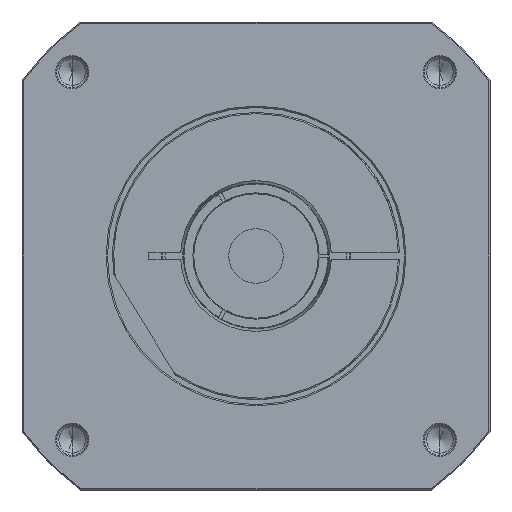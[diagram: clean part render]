
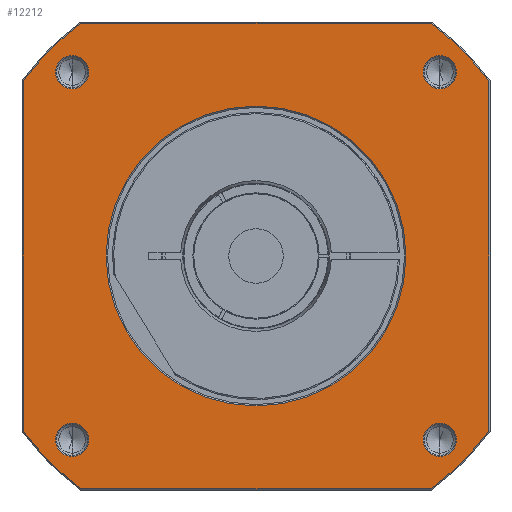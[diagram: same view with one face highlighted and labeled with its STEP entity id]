
A CAD part, left-side view. The second image highlights one B-rep face of the part: STEP entity #12212.
In plain terms, the highlighted planar face has unit normal (-1, 0, 0) as drawn and (0, 0, 1) by its records, which use the part's own axes.
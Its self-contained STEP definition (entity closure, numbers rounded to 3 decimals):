
#10940=DIRECTION('',(1.,0.,0.));
#10941=VECTOR('',#10940,134.666);
#10942=CARTESIAN_POINT('',(-67.333,-89.5,54.));
#10943=LINE('',#10942,#10941);
#10953=CARTESIAN_POINT('',(0.,0.,54.));
#10954=DIRECTION('',(0.,0.,-1.));
#10955=DIRECTION('',(0.,-1.,0.));
#10956=AXIS2_PLACEMENT_3D('',#10953,#10954,#10955);
#10958=CARTESIAN_POINT('',(0.,0.,
54.));
#10959=DIRECTION('',(0.,0.,-1.));
#10960=DIRECTION('',(0.,1.,0.));
#10961=AXIS2_PLACEMENT_3D('',#10958,#10959,#10960);
#10963=CARTESIAN_POINT('',(0.,0.,54.));
#10964=DIRECTION('',(0.,0.,1.));
#10965=DIRECTION('',(-0.799,-0.601,0.));
#10966=AXIS2_PLACEMENT_3D('',#10963,#10964,#10965);
#10978=DIRECTION('',(0.,-1.,0.));
#10979=VECTOR('',#10978,134.666);
#10980=CARTESIAN_POINT('',(-89.5,67.333,54.));
#10981=LINE('',#10980,#10979);
#10991=CARTESIAN_POINT('',(0.,0.,54.));
#10992=DIRECTION('',(0.,0.,1.));
#10993=DIRECTION('',(-0.601,0.799,0.));
#10994=AXIS2_PLACEMENT_3D('',#10991,#10992,#10993);
#11019=DIRECTION('',(-1.,0.,0.));
#11020=VECTOR('',#11019,134.666);
#11021=CARTESIAN_POINT('',(67.333,89.5,54.));
#11022=LINE('',#11021,#11020);
#11027=CARTESIAN_POINT('',(0.,0.,54.));
#11028=DIRECTION('',(0.,0.,1.));
#11029=DIRECTION('',(0.799,0.601,0.));
#11030=AXIS2_PLACEMENT_3D('',#11027,#11028,#11029);
#11042=DIRECTION('',(0.,1.,0.));
#11043=VECTOR('',#11042,134.666);
#11044=CARTESIAN_POINT('',(89.5,-67.333,54.));
#11045=LINE('',#11044,#11043);
#11147=CARTESIAN_POINT('',(0.,0.,54.));
#11148=DIRECTION('',(0.,0.,1.));
#11149=DIRECTION('',(0.601,-0.799,0.));
#11150=AXIS2_PLACEMENT_3D('',#11147,#11148,#11149);
#11429=CARTESIAN_POINT('',(-70.711,70.711,54.));
#11430=DIRECTION('',(0.,0.,1.));
#11431=DIRECTION('',(-1.,0.,0.));
#11432=AXIS2_PLACEMENT_3D('',#11429,#11430,#11431);
#11447=CARTESIAN_POINT('',(-70.711,70.711,54.));
#11448=DIRECTION('',(0.,0.,1.));
#11449=DIRECTION('',(1.,0.,0.));
#11450=AXIS2_PLACEMENT_3D('',#11447,#11448,#11449);
#11483=CARTESIAN_POINT('',(70.711,70.711,54.));
#11484=DIRECTION('',(0.,0.,1.));
#11485=DIRECTION('',(-1.,0.,0.));
#11486=AXIS2_PLACEMENT_3D('',#11483,#11484,#11485);
#11501=CARTESIAN_POINT('',(70.711,70.711,54.));
#11502=DIRECTION('',(0.,0.,1.));
#11503=DIRECTION('',(1.,0.,0.));
#11504=AXIS2_PLACEMENT_3D('',#11501,#11502,#11503);
#11537=CARTESIAN_POINT('',(70.711,-70.711,54.));
#11538=DIRECTION('',(0.,0.,1.));
#11539=DIRECTION('',(-1.,0.,0.));
#11540=AXIS2_PLACEMENT_3D('',#11537,#11538,#11539);
#11555=CARTESIAN_POINT('',(70.711,-70.711,54.));
#11556=DIRECTION('',(0.,0.,1.));
#11557=DIRECTION('',(1.,0.,0.));
#11558=AXIS2_PLACEMENT_3D('',#11555,#11556,#11557);
#11591=CARTESIAN_POINT('',(-70.711,-70.711,54.));
#11592=DIRECTION('',(0.,0.,1.));
#11593=DIRECTION('',(-1.,0.,0.));
#11594=AXIS2_PLACEMENT_3D('',#11591,#11592,#11593);
#11609=CARTESIAN_POINT('',(-70.711,-70.711,54.));
#11610=DIRECTION('',(0.,0.,1.));
#11611=DIRECTION('',(1.,0.,0.));
#11612=AXIS2_PLACEMENT_3D('',#11609,#11610,#11611);
#11653=CARTESIAN_POINT('',(89.5,-67.333,54.));
#11654=CARTESIAN_POINT('',(89.5,67.333,54.));
#11655=VERTEX_POINT('',#11653);
#11656=VERTEX_POINT('',#11654);
#11661=CARTESIAN_POINT('',(67.333,-89.5,54.));
#11662=VERTEX_POINT('',#11661);
#11665=CARTESIAN_POINT('',(-67.333,-89.5,54.));
#11666=VERTEX_POINT('',#11665);
#11669=CARTESIAN_POINT('',(-89.5,-67.333,54.));
#11670=VERTEX_POINT('',#11669);
#11673=CARTESIAN_POINT('',(-89.5,67.333,54.));
#11674=VERTEX_POINT('',#11673);
#11677=CARTESIAN_POINT('',(-67.333,89.5,54.));
#11678=VERTEX_POINT('',#11677);
#11681=CARTESIAN_POINT('',(67.333,89.5,54.));
#11682=VERTEX_POINT('',#11681);
#11731=CARTESIAN_POINT('',(-77.111,70.711,54.));
#11732=CARTESIAN_POINT('',(-64.311,70.711,54.));
#11733=VERTEX_POINT('',#11731);
#11734=VERTEX_POINT('',#11732);
#11765=CARTESIAN_POINT('',(77.111,70.711,54.));
#11766=CARTESIAN_POINT('',(64.311,70.711,54.));
#11767=VERTEX_POINT('',#11765);
#11768=VERTEX_POINT('',#11766);
#11773=CARTESIAN_POINT('',(77.111,-70.711,54.));
#11774=CARTESIAN_POINT('',(64.311,-70.711,54.));
#11775=VERTEX_POINT('',#11773);
#11776=VERTEX_POINT('',#11774);
#11781=CARTESIAN_POINT('',(-64.311,-70.711,54.));
#11782=CARTESIAN_POINT('',(-77.111,-70.711,54.));
#11783=VERTEX_POINT('',#11781);
#11784=VERTEX_POINT('',#11782);
#11789=CARTESIAN_POINT('',(0.,-57.65,54.));
#11790=CARTESIAN_POINT('',(0.,57.65,54.));
#11791=VERTEX_POINT('',#11789);
#11792=VERTEX_POINT('',#11790);
#12160=CARTESIAN_POINT('',(0.,0.,54.));
#12161=DIRECTION('',(0.,0.,1.));
#12162=DIRECTION('',(1.,0.,0.));
#12163=AXIS2_PLACEMENT_3D('',#12160,#12161,#12162);
#12164=PLANE('',#12163);
#12166=ORIENTED_EDGE('',*,*,#12165,.F.);
#12168=ORIENTED_EDGE('',*,*,#12167,.F.);
#12170=ORIENTED_EDGE('',*,*,#12169,.F.);
#12172=ORIENTED_EDGE('',*,*,#12171,.F.);
#12174=ORIENTED_EDGE('',*,*,#12173,.F.);
#12176=ORIENTED_EDGE('',*,*,#12175,.F.);
#12178=ORIENTED_EDGE('',*,*,#12177,.F.);
#12179=ORIENTED_EDGE('',*,*,#12150,.F.);
#12180=EDGE_LOOP('',(#12166,#12168,#12170,#12172,#12174,#12176,#12178,#12179));
#12181=FACE_OUTER_BOUND('',#12180,.F.);
#12183=ORIENTED_EDGE('',*,*,#12182,.F.);
#12185=ORIENTED_EDGE('',*,*,#12184,.F.);
#12186=EDGE_LOOP('',(#12183,#12185));
#12187=FACE_BOUND('',#12186,.F.);
#12189=ORIENTED_EDGE('',*,*,#12188,.T.);
#12191=ORIENTED_EDGE('',*,*,#12190,.T.);
#12192=EDGE_LOOP('',(#12189,#12191));
#12193=FACE_BOUND('',#12192,.F.);
#12195=ORIENTED_EDGE('',*,*,#12194,.T.);
#12197=ORIENTED_EDGE('',*,*,#12196,.T.);
#12198=EDGE_LOOP('',(#12195,#12197));
#12199=FACE_BOUND('',#12198,.F.);
#12201=ORIENTED_EDGE('',*,*,#12200,.T.);
#12203=ORIENTED_EDGE('',*,*,#12202,.T.);
#12204=EDGE_LOOP('',(#12201,#12203));
#12205=FACE_BOUND('',#12204,.F.);
#12207=ORIENTED_EDGE('',*,*,#12206,.T.);
#12209=ORIENTED_EDGE('',*,*,#12208,.T.);
#12210=EDGE_LOOP('',(#12207,#12209));
#12211=FACE_BOUND('',#12210,.F.);
#12212=ADVANCED_FACE('',(#12181,#12187,#12193,#12199,#12205,#12211),#12164,.T.);
#10957=CIRCLE('',#10956,57.65);
#10962=CIRCLE('',#10961,57.65);
#10967=CIRCLE('',#10966,112.);
#10995=CIRCLE('',#10994,112.);
#11031=CIRCLE('',#11030,112.);
#11151=CIRCLE('',#11150,112.);
#11433=CIRCLE('',#11432,6.4);
#11451=CIRCLE('',#11450,6.4);
#11487=CIRCLE('',#11486,6.4);
#11505=CIRCLE('',#11504,6.4);
#11541=CIRCLE('',#11540,6.4);
#11559=CIRCLE('',#11558,6.4);
#11595=CIRCLE('',#11594,6.4);
#11613=CIRCLE('',#11612,6.4);
#12150=EDGE_CURVE('',#11666,#11662,#10943,.T.);
#12165=EDGE_CURVE('',#11670,#11666,#10967,.T.);
#12167=EDGE_CURVE('',#11674,#11670,#10981,.T.);
#12169=EDGE_CURVE('',#11678,#11674,#10995,.T.);
#12171=EDGE_CURVE('',#11682,#11678,#11022,.T.);
#12173=EDGE_CURVE('',#11656,#11682,#11031,.T.);
#12175=EDGE_CURVE('',#11655,#11656,#11045,.T.);
#12177=EDGE_CURVE('',#11662,#11655,#11151,.T.);
#12182=EDGE_CURVE('',#11791,#11792,#10957,.T.);
#12184=EDGE_CURVE('',#11792,#11791,#10962,.T.);
#12188=EDGE_CURVE('',#11733,#11734,#11433,.T.);
#12190=EDGE_CURVE('',#11734,#11733,#11451,.T.);
#12194=EDGE_CURVE('',#11768,#11767,#11487,.T.);
#12196=EDGE_CURVE('',#11767,#11768,#11505,.T.);
#12200=EDGE_CURVE('',#11776,#11775,#11541,.T.);
#12202=EDGE_CURVE('',#11775,#11776,#11559,.T.);
#12206=EDGE_CURVE('',#11784,#11783,#11595,.T.);
#12208=EDGE_CURVE('',#11783,#11784,#11613,.T.);
